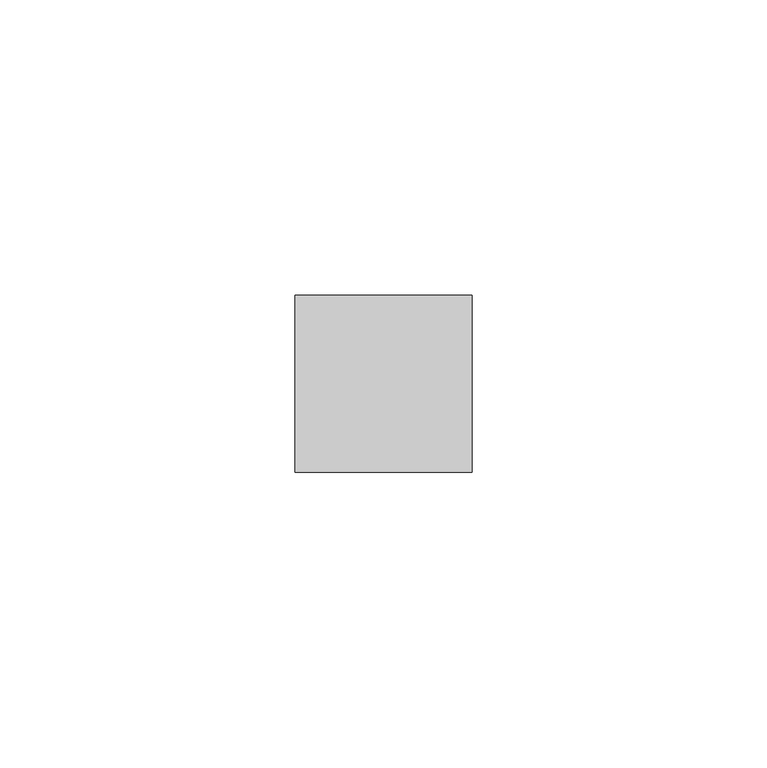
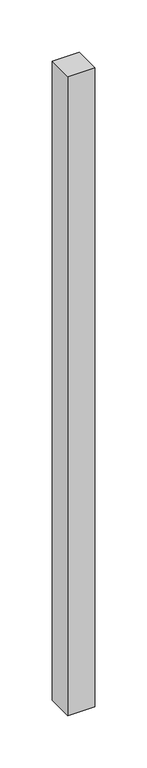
"""IFC4 building model written with IfcOpenShell, lengths in millimetres: member geometry, 矩形竖梃 : 30mm 正方形."""

from ifc_helpers import new_model, si_unit, frame, origin, place, context, project, spatial, polyline, outline, extrude, source, transform, mapped, element, save


def member_a19ce0de(model_context):
    return source(origin(), model_context, "Body", "SweptSolid", [
        extrude(outline(polyline([(15.0, 15.0), (15.0, -15.0), (-15.0, -15.0), (-15.0, 15.0), (15.0, 15.0)])), frame((0.0, 0.0, -748.5281374), z_axis=(0.0, 0.0, 1.0), x_axis=(1.0, 0.0, 0.0)), (0.0, 0.0, 1.0), 748.5281374),
    ])


if __name__ == "__main__":
    model = new_model("IFC4")
    model_context = context("Model", 3, world=origin())
    ifc_project = project(units=[si_unit("LENGTHUNIT", "METRE", prefix="MILLI")], contexts=[model_context])
    site = spatial("IfcSite", under=ifc_project)
    building = spatial("IfcBuilding", under=site)
    placement = place(None, origin())
    member_shape = member_a19ce0de(model_context)
    element("IfcMember", 1, ObjectType="矩形竖梃 : 30mm 正方形", at=placement, inside=building, context=model_context, shape_type="MappedRepresentation", body=[
        mapped(member_shape, transform((0.0, 0.0, 0.0), x_axis=(1.0, 0.0, 0.0), y_axis=(0.0, 1.0, 0.0), z_axis=(0.0, 0.0, 1.0))),
    ])
    save(model, "model.ifc")
